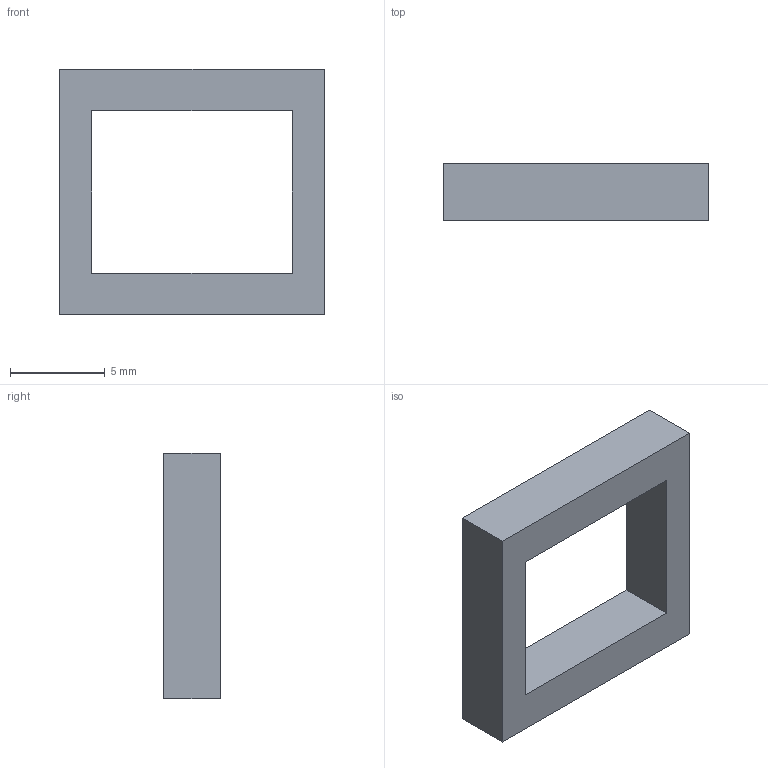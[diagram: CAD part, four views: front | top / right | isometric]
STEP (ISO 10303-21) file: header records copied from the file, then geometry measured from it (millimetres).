
FILE_DESCRIPTION(('FreeCAD Model'),'2;1');
FILE_NAME('Open CASCADE Shape Model','2026-11-20T08:25:39',('FreeCAD'),( 'FreeCAD'),'Open CASCADE STEP processor 7.8','FreeCAD','Unknown');
FILE_SCHEMA(('AUTOMOTIVE_DESIGN { 1 0 10303 214 1 1 1 1 }'));
Length unit declared in the file: millimetre
Products named in the file (1): Open CASCADE STEP translator 7.8 80
Bounding box: 14 x 3 x 13 mm (x, y, z)
Volume: 272.5 mm3; surface area: 458.9 mm2
Topology: 1 solids, 1 shells, 10 faces, 24 edges, 16 vertices
Faces by surface type: plane 10
Entity records: 302 total; most frequent: CARTESIAN_POINT 51, ORIENTED_EDGE 48, DIRECTION 46, EDGE_CURVE 24, LINE 24, VECTOR 24, VERTEX_POINT 16, FACE_BOUND 12
